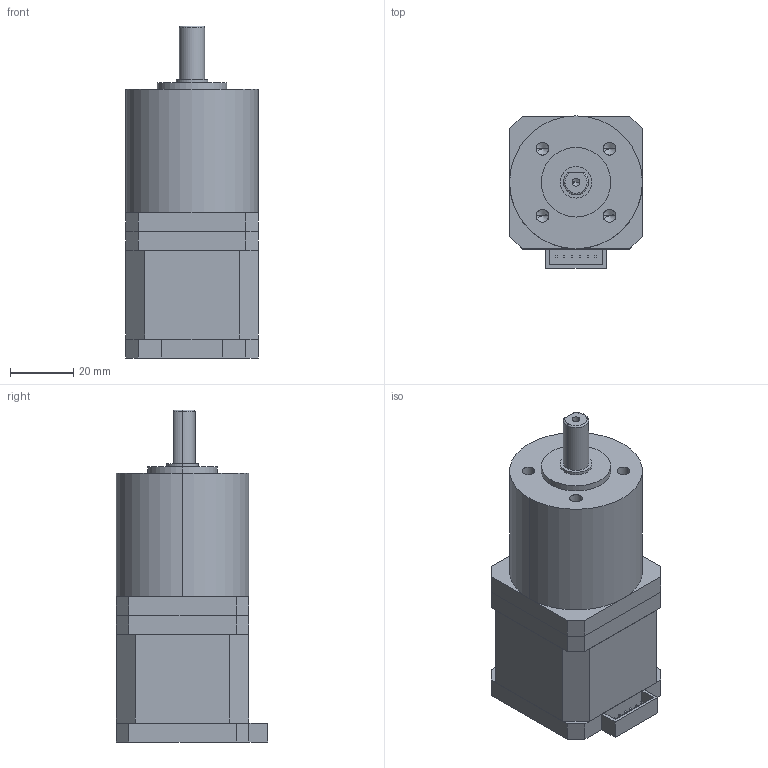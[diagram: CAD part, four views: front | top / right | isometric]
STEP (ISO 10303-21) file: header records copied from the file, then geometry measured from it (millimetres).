
FILE_DESCRIPTION (( 'STEP AP203' ), '1' );
FILE_NAME ('T42PG020-D17-0440.STEP', '2019-10-25T07:34:10', ( 'China' ), ( 'Home' ), 'SwSTEP 2.0', 'SolidWorks 2016', '' );
FILE_SCHEMA (( 'CONFIG_CONTROL_DESIGN' ));
Length unit declared in the file: millimetre
Products named in the file (1): T42PG020-D17-0440
Bounding box: 42 x 48 x 105 mm (x, y, z)
Volume: 134020.4 mm3; surface area: 27690.5 mm2
Topology: 4 solids, 4 shells, 127 faces, 301 edges, 187 vertices
Faces by surface type: plane 87, cylinder 19, cone 18, bspline 3
Entity records: 3678 total; most frequent: CARTESIAN_POINT 708, DIRECTION 586, ORIENTED_EDGE 582, EDGE_CURVE 291, VECTOR 236, LINE 236, VERTEX_POINT 187, AXIS2_PLACEMENT_3D 175
